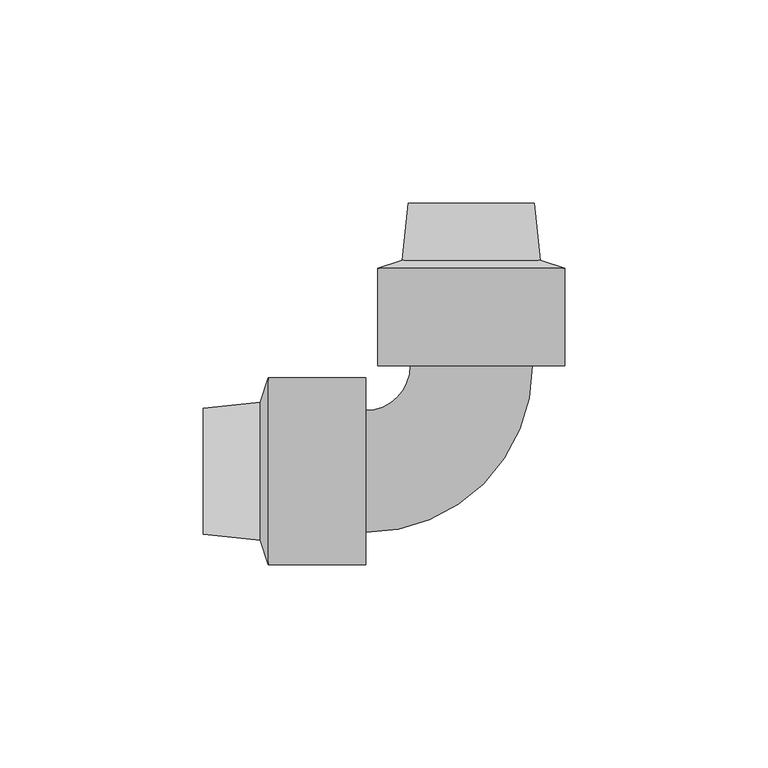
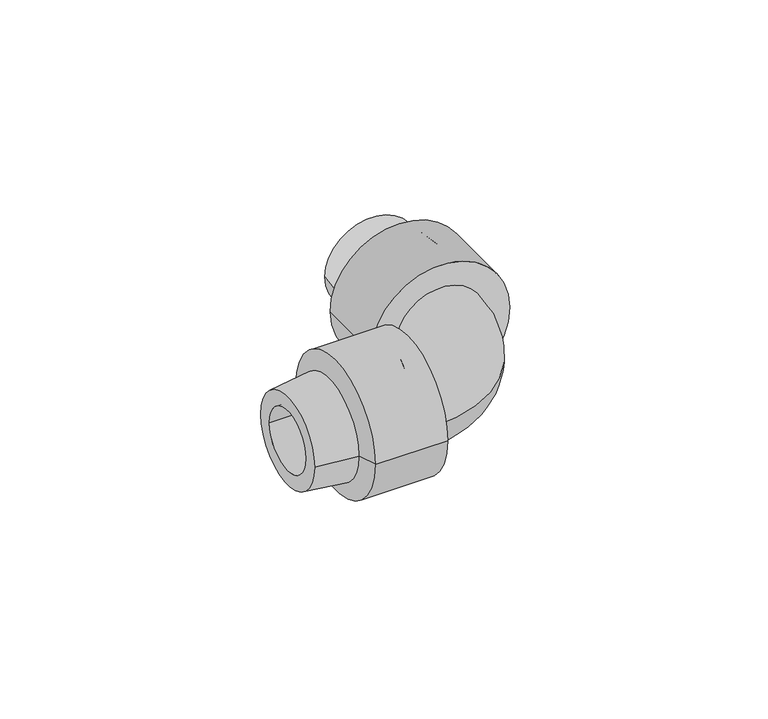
"""IFC4 building model written with IfcOpenShell, lengths in millimetres: pipe fitting geometry, Pipelife - PE - Kolano 90 proste : Pipelife - PE - Kolano 90 proste."""

from ifc_helpers import new_model, si_unit, point, frame, origin, place, context, project, spatial, polyline, circle_curve, ellipse_curve, trimmed, source, transform, mapped, element, save
from ifc_brep_helpers import plane_surface, cylinder_surface, revolved_surface, advanced_brep


def pipe_fitting_109fa5bd(model_context):
    return source(origin(), model_context, "Body", "AdvancedBrep", [
        advanced_brep(
        [(-26.0, -15.0, 0.0), (-26.0, 15.0, 0.0), (15.0, 26.0, 0.0), (-15.0, 26.0, 0.0)],
        [
            (0, 1, circle_curve(frame((-26.0, 0.0, 0.0), z_axis=(-1.0000000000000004, 3.274991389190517e-12, 0.0), x_axis=(3.274991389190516e-12, 1.0000000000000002, 0.0)), 15.0)),
            (1, 0, circle_curve(frame((-26.0, 0.0, 0.0), z_axis=(-1.0000000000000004, 3.274991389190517e-12, 0.0), x_axis=(3.274991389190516e-12, 1.0000000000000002, 0.0)), 15.0)),
            (2, 3, circle_curve(frame((0.0, 26.0, 0.0), z_axis=(3.2763848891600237e-12, 1.0000000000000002, 0.0), x_axis=(-1.0000000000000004, 3.2763848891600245e-12, 0.0)), 15.0)),
            (3, 2, circle_curve(frame((0.0, 26.0, 0.0), z_axis=(3.2763848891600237e-12, 1.0000000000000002, 0.0), x_axis=(-1.0000000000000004, 3.2763848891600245e-12, 0.0)), 15.0)),
            (3, 1, circle_curve(frame((-26.0, 26.0, 0.0), z_axis=(0.0, 0.0, -1.0), x_axis=(-3.2748248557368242e-12, -1.0000000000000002, 0.0)), 11.0)),
            (0, 2, circle_curve(frame((-26.0, 26.0, 0.0), z_axis=(0.0, 0.0, 1.0), x_axis=(-3.2748248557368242e-12, -1.0000000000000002, 0.0)), 41.0)),
        ],
        [
            plane_surface(frame((-26.0, 0.0, 0.0), z_axis=(-1.0, 3.274935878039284e-12, 0.0), x_axis=(0.0, 0.0, 1.0))),
            plane_surface(frame((0.0, 26.0, 0.0), z_axis=(3.276268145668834e-12, 1.0, 0.0), x_axis=(0.0, 0.0, 1.0))),
            revolved_surface(trimmed(ellipse_curve(frame((-26.0, 0.0, 0.0), z_axis=(-1.0000000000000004, 3.274991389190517e-12, 0.0), x_axis=(3.274991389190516e-12, 1.0000000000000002, 0.0)), 15.0, 15.0), [point((-26.0, -15.0, 0.0))], [point((-26.0, 15.0, 0.0))], True, "CARTESIAN"), (-26.0, 26.0, 0.0), (0.0, 0.0, 1.0000000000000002)),
            revolved_surface(trimmed(ellipse_curve(frame((-26.0, 0.0, 0.0), z_axis=(-1.0000000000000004, 3.274991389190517e-12, 0.0), x_axis=(3.274991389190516e-12, 1.0000000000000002, 0.0)), 15.0, 15.0), [point((-26.0, 15.0, 0.0))], [point((-26.0, -15.0, 0.0))], True, "CARTESIAN"), (-26.0, 26.0, 0.0), (0.0, 0.0, 1.0000000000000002)),
        ],
        [
            (0, [[1, 2]]),
            (1, [[3, 4]]),
            (2, [[5, -1, 6, -4]]),
            (3, [[-6, -2, -5, -3]]),
        ],
    ),
        advanced_brep(
        [(15.5, 66.0, 0.0), (-15.5, 66.0, 0.0), (10.5, 66.0, 0.0), (-10.5, 66.0, 0.0), (17.0, 52.0, 0.0), (-17.0, 52.0, 0.0), (-10.5, 52.0, 0.0), (10.5, 52.0, 0.0)],
        [
            (0, 1, circle_curve(frame((0.0, 66.0, 0.0), z_axis=(0.0, 1.0, 0.0), x_axis=(1.0, 0.0, 0.0)), 15.5)),
            (1, 0, circle_curve(frame((0.0, 66.0, 0.0), z_axis=(0.0, 1.0, 0.0), x_axis=(-1.0, 0.0, 0.0)), 15.5)),
            (2, 3, circle_curve(frame((0.0, 66.0, 0.0), z_axis=(0.0, -1.0, 0.0), x_axis=(1.0, 0.0, 0.0)), 10.5)),
            (3, 2, circle_curve(frame((0.0, 66.0, 0.0), z_axis=(0.0, -1.0, 0.0), x_axis=(1.0, 0.0, 0.0)), 10.5)),
            (4, 5, circle_curve(frame((0.0, 52.0, 0.0), z_axis=(0.0, -1.0, 0.0), x_axis=(-1.0, 0.0, 0.0)), 17.0)),
            (5, 4, circle_curve(frame((0.0, 52.0, 0.0), z_axis=(0.0, -1.0, 0.0), x_axis=(1.0, 0.0, 0.0)), 17.0)),
            (6, 7, circle_curve(frame((0.0, 52.0, 0.0), z_axis=(0.0, 1.0, 0.0), x_axis=(1.0, 0.0, 0.0)), 10.5)),
            (7, 6, circle_curve(frame((0.0, 52.0, 0.0), z_axis=(0.0, 1.0, 0.0), x_axis=(1.0, 0.0, 0.0)), 10.5)),
            (0, 4),
            (5, 1),
            (6, 3),
            (2, 7),
        ],
        [
            plane_surface(frame((0.0, 66.0, 0.0), z_axis=(0.0, 1.0, 0.0), x_axis=(0.0, 0.0, -1.0))),
            plane_surface(frame((0.0, 52.0, 0.0), z_axis=(0.0, -1.0, 0.0), x_axis=(0.0, 0.0, -1.0))),
            revolved_surface(polyline([(15.500000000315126, 66.0, 0.0), (17.0, 52.0, 0.0)]), (0.0, 210.6666667, 0.0), (0.0, -1.0, 0.0)),
            revolved_surface(polyline([(-15.500000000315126, 66.0, 0.0), (-17.0, 52.0, 0.0)]), (0.0, 210.6666667, 0.0), (0.0, -1.0, 0.0)),
            revolved_surface(polyline([(10.5, 66.0, 0.0), (10.5, 52.0, 0.0)]), (0.0, 66.0, 0.0), (0.0, 1.0, 0.0)),
        ],
        [
            (0, [[1, 2], [3, 4]]),
            (1, [[5, 6], [7, 8]]),
            (2, [[-1, 9, -6, 10]]),
            (3, [[-2, -10, -5, -9]]),
            (4, [[11, -3, 12, -7]]),
            (4, [[-11, -8, -12, -4]]),
        ],
    ),
        advanced_brep(
        [(-23.0, 26.0, 0.0), (23.0, 26.0, 0.0), (-10.5, 26.0, 0.0), (10.5, 26.0, 0.0), (23.0, 50.0, 0.0), (-23.0, 50.0, 0.0), (-10.5, 52.0, 0.0), (10.5, 52.0, 0.0), (17.0, 52.0, 0.0), (-17.0, 52.0, 0.0)],
        [
            (0, 1, circle_curve(frame((0.0, 26.0, 0.0), z_axis=(0.0, -1.0, 0.0), x_axis=(1.0, 0.0, 0.0)), 23.0)),
            (1, 0, circle_curve(frame((0.0, 26.0, 0.0), z_axis=(0.0, -1.0, 0.0), x_axis=(1.0, 0.0, 0.0)), 23.0)),
            (2, 3, circle_curve(frame((0.0, 26.0, 0.0), z_axis=(0.0, 1.0, 0.0), x_axis=(1.0, 0.0, 0.0)), 10.5)),
            (3, 2, circle_curve(frame((0.0, 26.0, 0.0), z_axis=(0.0, 1.0, 0.0), x_axis=(1.0, 0.0, 0.0)), 10.5)),
            (1, 4),
            (4, 5, circle_curve(frame((0.0, 50.0, 0.0), z_axis=(0.0, -1.0, 0.0), x_axis=(1.0, 0.0, 0.0)), 23.0)),
            (5, 0),
            (5, 4, circle_curve(frame((0.0, 50.0, 0.0), z_axis=(0.0, -1.0, 0.0), x_axis=(1.0, 0.0, 0.0)), 23.0)),
            (2, 6),
            (6, 7, circle_curve(frame((0.0, 52.0, 0.0), z_axis=(0.0, 1.0, 0.0), x_axis=(1.0, 0.0, 0.0)), 10.5)),
            (7, 3),
            (7, 6, circle_curve(frame((0.0, 52.0, 0.0), z_axis=(0.0, 1.0, 0.0), x_axis=(1.0, 0.0, 0.0)), 10.5)),
            (8, 9, circle_curve(frame((0.0, 52.0, 0.0), z_axis=(0.0, 1.0, 0.0), x_axis=(1.0, 0.0, 0.0)), 17.0)),
            (9, 8, circle_curve(frame((0.0, 52.0, 0.0), z_axis=(0.0, 1.0, 0.0), x_axis=(-1.0, 0.0, 0.0)), 17.0)),
            (8, 4),
            (5, 9),
        ],
        [
            plane_surface(frame((0.0, 26.0, 0.0), z_axis=(0.0, -1.0, 0.0), x_axis=(0.0, 0.0, 1.0))),
            cylinder_surface(frame((0.0, 50.0, 0.0), z_axis=(0.0, 1.0, 0.0), x_axis=(1.0, 0.0, 0.0)), 23.0),
            revolved_surface(polyline([(10.5, 52.0, 0.0), (10.5, 26.0, 0.0)]), (0.0, 66.0, 0.0), (0.0, 1.0, 0.0)),
            plane_surface(frame((0.0, 52.0, 0.0), z_axis=(0.0, 1.0, 0.0), x_axis=(0.0, 0.0, -1.0))),
            revolved_surface(polyline([(17.00000002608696, 52.0, 0.0), (23.0, 50.0, 0.0)]), (0.0, 57.6666667, 0.0), (0.0, -1.0, 0.0)),
            revolved_surface(polyline([(-17.00000002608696, 52.0, 0.0), (-23.0, 50.0, 0.0)]), (0.0, 57.6666667, 0.0), (0.0, -1.0, 0.0)),
        ],
        [
            (0, [[1, 2], [3, 4]]),
            (1, [[-2, 5, 6, 7]]),
            (1, [[-1, -7, 8, -5]]),
            (2, [[9, 10, 11, -3]]),
            (2, [[-9, -4, -11, 12]]),
            (3, [[13, 14], [-10, -12]]),
            (4, [[-13, 15, -8, 16]]),
            (5, [[-14, -16, -6, -15]]),
        ],
    ),
        advanced_brep(
        [(-26.0, -23.0, 0.0), (-26.0, 23.0, 0.0), (-26.0, -10.5, 0.0), (-26.0, 10.5, 0.0), (-50.0, 23.0, 0.0), (-50.0, -23.0, 0.0), (-66.0, -10.5, 0.0), (-66.0, 10.5, 0.0), (-52.0, -17.0, 0.0), (-52.0, 17.0, 0.0), (-66.0, 15.5, 0.0), (-66.0, -15.5, 0.0)],
        [
            (0, 1, circle_curve(frame((-26.0, 0.0, 0.0), z_axis=(1.0, 0.0, 0.0), x_axis=(0.0, 1.0, 0.0)), 23.0)),
            (1, 0, circle_curve(frame((-26.0, 0.0, 0.0), z_axis=(1.0, 0.0, 0.0), x_axis=(0.0, 1.0, 0.0)), 23.0)),
            (2, 3, circle_curve(frame((-26.0, 0.0, 0.0), z_axis=(-1.0, 0.0, 0.0), x_axis=(0.0, 1.0, 0.0)), 10.5)),
            (3, 2, circle_curve(frame((-26.0, 0.0, 0.0), z_axis=(-1.0, 0.0, 0.0), x_axis=(0.0, 1.0, 0.0)), 10.5)),
            (1, 4),
            (4, 5, circle_curve(frame((-50.0, 0.0, 0.0), z_axis=(1.0, 0.0, 0.0), x_axis=(0.0, 1.0, 0.0)), 23.0)),
            (5, 0),
            (5, 4, circle_curve(frame((-50.0, 0.0, 0.0), z_axis=(1.0, 0.0, 0.0), x_axis=(0.0, 1.0, 0.0)), 23.0)),
            (2, 6),
            (6, 7, circle_curve(frame((-66.0, 0.0, 0.0), z_axis=(-1.0, 0.0, 0.0), x_axis=(0.0, 1.0, 0.0)), 10.5)),
            (7, 3),
            (7, 6, circle_curve(frame((-66.0, 0.0, 0.0), z_axis=(-1.0, 0.0, 0.0), x_axis=(0.0, 1.0, 0.0)), 10.5)),
            (5, 8),
            (8, 9, circle_curve(frame((-52.0, 0.0, 0.0), z_axis=(1.0, 0.0, 0.0), x_axis=(0.0, 1.0, 0.0)), 17.0)),
            (9, 4),
            (9, 8, circle_curve(frame((-52.0, 0.0, 0.0), z_axis=(1.0, 0.0, 0.0), x_axis=(0.0, -1.0, 0.0)), 17.0)),
            (10, 11, circle_curve(frame((-66.0, 0.0, 0.0), z_axis=(-1.0, 0.0, 0.0), x_axis=(0.0, 1.0, 0.0)), 15.5)),
            (11, 10, circle_curve(frame((-66.0, 0.0, 0.0), z_axis=(-1.0, 0.0, 0.0), x_axis=(0.0, -1.0, 0.0)), 15.5)),
            (10, 9),
            (8, 11),
        ],
        [
            plane_surface(frame((-26.0, 0.0, 0.0), z_axis=(1.0, 0.0, 0.0), x_axis=(0.0, 0.0, 1.0))),
            cylinder_surface(frame((-50.0, 0.0, 0.0), z_axis=(-1.0, 0.0, 0.0), x_axis=(0.0, 1.0, 0.0)), 23.0),
            revolved_surface(polyline([(-66.0, 10.5, 0.0), (-26.0, 10.5, 0.0)]), (-66.0, 0.0, 0.0), (-1.0, 0.0, 0.0)),
            revolved_surface(polyline([(-52.0, -17.00000002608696, 0.0), (-50.0, -23.0, 0.0)]), (-57.6666667, 0.0, 0.0), (1.0, 0.0, 0.0)),
            plane_surface(frame((-66.0, 0.0, 0.0), z_axis=(-1.0, 0.0, 0.0), x_axis=(0.0, 0.0, -1.0))),
            revolved_surface(polyline([(-66.0, 15.500000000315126, 0.0), (-52.0, 17.0, 0.0)]), (-210.6666667, 0.0, 0.0), (1.0, 0.0, 0.0)),
            revolved_surface(polyline([(-66.0, -15.500000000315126, 0.0), (-52.0, -17.0, 0.0)]), (-210.6666667, 0.0, 0.0), (1.0, 0.0, 0.0)),
        ],
        [
            (0, [[1, 2], [3, 4]]),
            (1, [[-2, 5, 6, 7]]),
            (1, [[-1, -7, 8, -5]]),
            (2, [[9, 10, 11, -3]]),
            (2, [[-9, -4, -11, 12]]),
            (3, [[13, 14, 15, -8]]),
            (3, [[-13, -6, -15, 16]]),
            (4, [[17, 18], [-10, -12]]),
            (5, [[-17, 19, -14, 20]]),
            (6, [[-18, -20, -16, -19]]),
        ],
    ),
    ])


if __name__ == "__main__":
    model = new_model("IFC4")
    model_context = context("Model", 3, world=origin())
    ifc_project = project(units=[si_unit("LENGTHUNIT", "METRE", prefix="MILLI")], contexts=[model_context])
    site = spatial("IfcSite", under=ifc_project)
    building = spatial("IfcBuilding", under=site)
    placement = place(None, origin())
    pipe_fitting_shape = pipe_fitting_109fa5bd(model_context)
    element("IfcPipeFitting", 1, ObjectType="Pipelife - PE - Kolano 90 proste : Pipelife - PE - Kolano 90 proste", at=placement, inside=building, context=model_context, shape_type="MappedRepresentation", body=[
        mapped(pipe_fitting_shape, transform((0.0, 0.0, 0.0), x_axis=(1.0, 0.0, 0.0), y_axis=(0.0, 1.0, 0.0), z_axis=(0.0, 0.0, 1.0))),
    ])
    save(model, "model.ifc")
